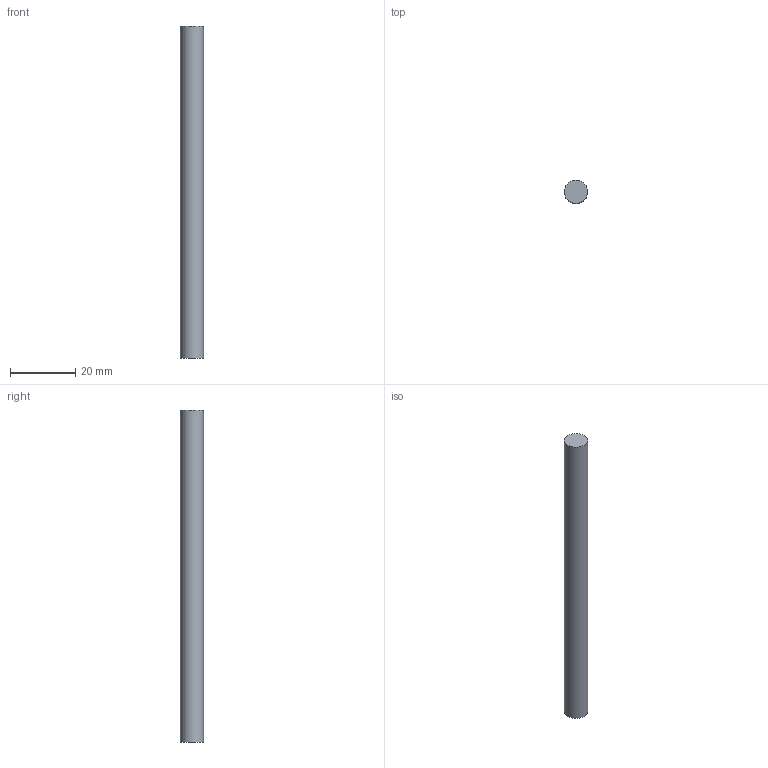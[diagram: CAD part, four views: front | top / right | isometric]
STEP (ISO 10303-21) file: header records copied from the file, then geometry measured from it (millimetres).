
FILE_DESCRIPTION(/* description */ ('STEP AP242','CAx-IF Rec.Pracs.---Representation and Presentation of Product Manufacturing Information (PMI)---4.0---2014-10-13','CAx-IF Rec.Pracs.---3D Tessellated Geometry---0.4---2014-09-14','2;1'),/* implementation_level */ '2;1');
FILE_NAME(/* name */ '67647e66d0dfb72b60bc8610',/* time_stamp */ '2024-12-19T20:13:26Z',/* author */ (''),/* organization */ (''),/* preprocessor_version */ 'ST-DEVELOPER v20',/* originating_system */ 'ONSHAPE BY PTC INC, 1.191',/* authorisation */ ' ');
FILE_SCHEMA (('AP242_MANAGED_MODEL_BASED_3D_ENGINEERING_MIM_LF { 1 0 10303 442 1 1 4 }'));
Length unit declared in the file: metre
Products named in the file (1): Part 1
Bounding box: 7.11 x 7.11 x 101.6 mm (x, y, z)
Volume: 4036.1 mm3; surface area: 2349.5 mm2
Topology: 1 solids, 1 shells, 3 faces, 3 edges, 2 vertices
Faces by surface type: plane 2, cylinder 1
Full cylindrical faces by diameter (mm): 7.112 x1
Entity records: 106 total; most frequent: DIRECTION 12, CARTESIAN_POINT 8, AXIS2_PLACEMENT_3D 6, ORIENTED_EDGE 4, EDGE_LOOP 4, FACE_BOUND 4, PRESENTATION_STYLE_ASSIGNMENT 4, SURFACE_STYLE_USAGE 4
